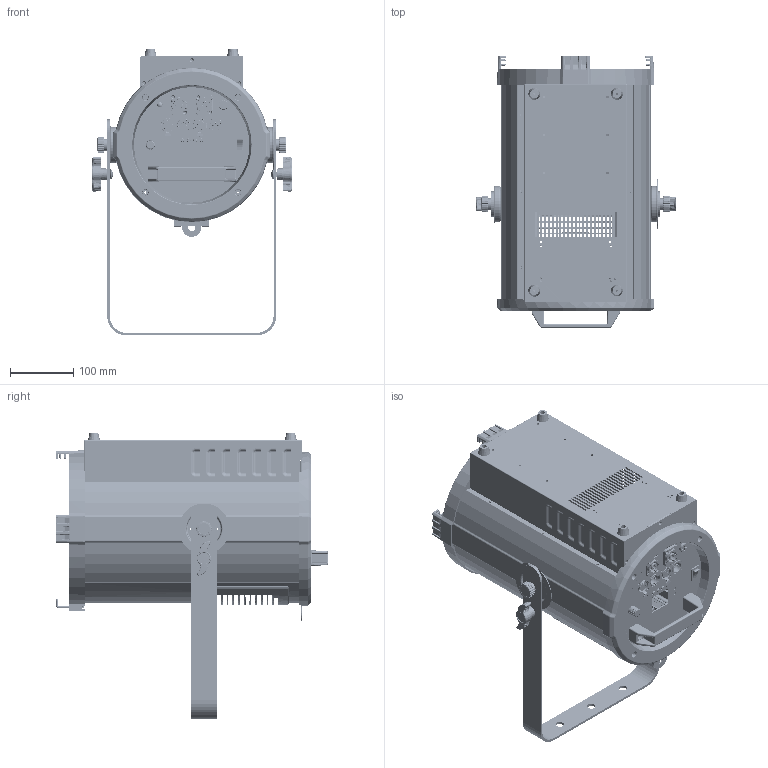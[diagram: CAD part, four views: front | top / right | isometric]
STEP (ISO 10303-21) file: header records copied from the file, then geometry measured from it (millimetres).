
FILE_DESCRIPTION((''),'2;1');
FILE_NAME('300-J_ASM','2025-07-08T15:44:41',('ALY'),(''),'CREO PARAMETRIC BY PTC INC, 2022164','CREO PARAMETRIC BY PTC INC, 2022164','');
FILE_SCHEMA(('AUTOMOTIVE_DESIGN { 1 0 10303 214 1 1 1 1 }'));
Length unit declared in the file: millimetre
Products named in the file (41): LWGD_A_S_Y; SRQ_A_S_Y_ASM; 111KK_S_Y; WE-QW_A_S_Y; SGB-J_A_S_Y; DYH-J__A_S_Y; DJ-SL_A_S_Y; DYH-J__A_S_Y_ASM; HK-JG_A_S_Y; BXSZ-A__A_S_Y; HG-21_S_Y; SB-CX_S_Y; 000; 0002; 350002; 3P000; 5P000; 350001_ASM; 200W00; 0003; 0004; M4X8-0001; 0005; HK-HG_A_S_Y_ASM; XY-80_S_Y; TSGD_S_Y; CJ-29_S_Y; TS-334_S_Y; LS-F_S_Y; TK-SL2___Y; 3344___Y; GDJ-3___Y; YKL-400_Y; TB-4___Y_ASM; FJW-D; FJ-120_ASM; XN-88; NY-S; 300-J_ASM
Assembly tree (52 placements, depth 4):
  300-J_ASM
    LWGD_A_S_Y
    SRQ_A_S_Y_ASM
    111KK_S_Y
    WE-QW_A_S_Y
    SGB-J_A_S_Y
    DYH-J__A_S_Y_ASM
      DYH-J__A_S_Y
      DJ-SL_A_S_Y  x4
    HK-HG_A_S_Y_ASM
      HK-JG_A_S_Y
      BXSZ-A__A_S_Y
      HG-21_S_Y
      SB-CX_S_Y
      000  x4
      0002
      350001_ASM
        350002
        3P000
        3P000
        5P000
        5P000
      200W00
      0003
      0004
      M4X8-0001
      0005
    XY-80_S_Y  x2
    TSGD_S_Y  x2
    CJ-29_S_Y  x2
    TS-334_S_Y
    LS-F_S_Y  x2
    TB-4___Y_ASM
      TK-SL2___Y
      3344___Y
      GDJ-3___Y
      YKL-400_Y
    FJ-120_ASM
      FJW-D
    XN-88  x2
    NY-S  x2
Bounding box: 314.82 x 428 x 451.5 mm (x, y, z)
Volume: 1503187.5 mm3; surface area: 1367321.9 mm2
Topology: 46 solids, 50 shells, 6342 faces, 15846 edges, 9728 vertices
Faces by surface type: plane 2126, cylinder 1875, bspline 1306, torus 621, cone 291, sphere 114, extrusion 9
Entity records: 257527 total; most frequent: CARTESIAN_POINT 79681, ORIENTED_EDGE 27864, DIRECTION 25719, EDGE_CURVE 13932, PRESENTATION_STYLE_ASSIGNMENT 12218, STYLED_ITEM 11610, CURVE_STYLE 10736, AXIS2_PLACEMENT_3D 9407
